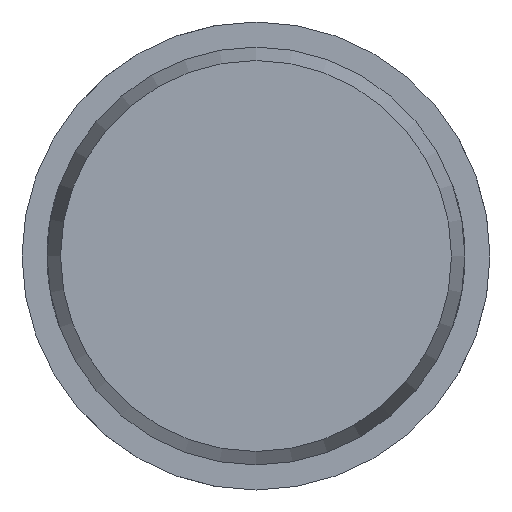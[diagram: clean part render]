
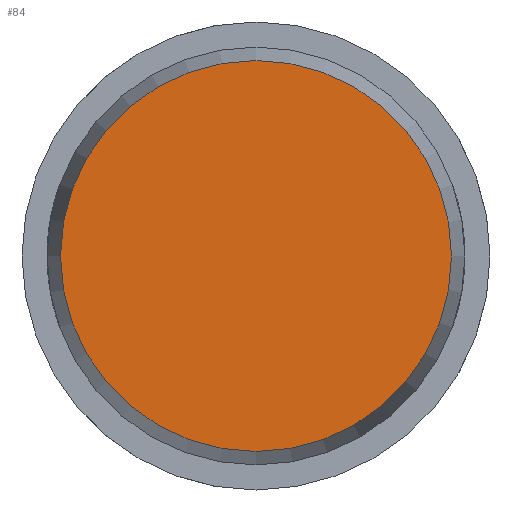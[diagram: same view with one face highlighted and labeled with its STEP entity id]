
A CAD part, left-side view. The second image highlights one B-rep face of the part: STEP entity #84.
In plain terms, the highlighted planar face has unit normal (-1, 0, 0).
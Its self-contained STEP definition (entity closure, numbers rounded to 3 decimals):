
#84 = ADVANCED_FACE( '', ( #132 ), #133, .F. );
#132 = FACE_OUTER_BOUND( '', #211, .T. );
#133 = PLANE( '', #212 );
#211 = EDGE_LOOP( '', ( #330 ) );
#212 = AXIS2_PLACEMENT_3D( '', #331, #332, #333 );
#330 = ORIENTED_EDGE( '', *, *, #492, .F. );
#331 = CARTESIAN_POINT( '', ( 0., 0., 0. ) );
#332 = DIRECTION( '', ( 1., 0., 0. ) );
#333 = DIRECTION( '', ( 0., 1., 0. ) );
#492 = EDGE_CURVE( '', #570, #570, #571, .T. );
#570 = VERTEX_POINT( '', #932 );
#571 = CIRCLE( '', #933, 11.696 );
#932 = CARTESIAN_POINT( '', ( 0., 11.696, 0. ) );
#933 = AXIS2_PLACEMENT_3D( '', #1016, #1017, #1018 );
#1016 = CARTESIAN_POINT( '', ( 0., 0., 0. ) );
#1017 = DIRECTION( '', ( 1., 0., 0. ) );
#1018 = DIRECTION( '', ( 0., 1., 0. ) );
